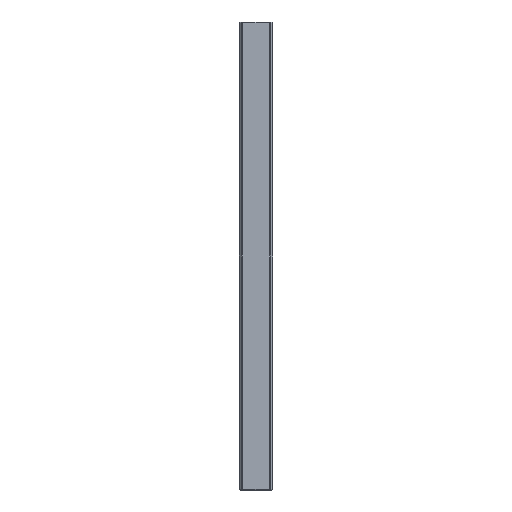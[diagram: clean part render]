
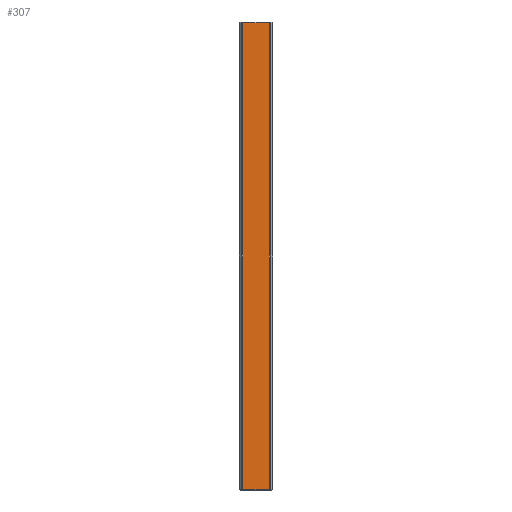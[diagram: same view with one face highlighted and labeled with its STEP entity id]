
A CAD part, front view. The second image highlights one B-rep face of the part: STEP entity #307.
In plain terms, the highlighted planar face has unit normal (0, -1, 0).
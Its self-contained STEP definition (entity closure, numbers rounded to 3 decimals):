
#162 = EDGE_CURVE ( 'NONE', #3725, #1312, #3333, .T. ) ;
#240 = LINE ( 'NONE', #790, #3924 ) ;
#246 = CARTESIAN_POINT ( 'NONE',  ( 2.195, -0.802, 100. ) ) ;
#251 = EDGE_CURVE ( 'NONE', #3675, #3725, #240, .T. ) ;
#307 = ADVANCED_FACE ( 'NONE', ( #1916 ), #1423, .F. ) ;
#315 = EDGE_CURVE ( 'NONE', #1312, #2818, #3817, .T. ) ;
#336 = EDGE_CURVE ( 'NONE', #2818, #3675, #3705, .T. ) ;
#363 = DIRECTION ( 'NONE',  ( 0., 1., 0. ) ) ;
#705 = DIRECTION ( 'NONE',  ( -1., 0., 0. ) ) ;
#790 = CARTESIAN_POINT ( 'NONE',  ( 2.195, -0.802, 0.2 ) ) ;
#859 = ORIENTED_EDGE ( 'NONE', *, *, #336, .T. ) ;
#1067 = DIRECTION ( 'NONE',  ( 0., 0., -1. ) ) ;
#1284 = DIRECTION ( 'NONE',  ( 1., 0., 0. ) ) ;
#1312 = VERTEX_POINT ( 'NONE', #4245 ) ;
#1408 = VECTOR ( 'NONE', #2861, 1000. ) ;
#1423 = PLANE ( 'NONE',  #3720 ) ;
#1666 = ORIENTED_EDGE ( 'NONE', *, *, #162, .T. ) ;
#1685 = VECTOR ( 'NONE', #1067, 1000. ) ;
#1916 = FACE_OUTER_BOUND ( 'NONE', #2916, .T. ) ;
#2192 = ORIENTED_EDGE ( 'NONE', *, *, #251, .T. ) ;
#2529 = CARTESIAN_POINT ( 'NONE',  ( -3.755, -0.802, 100. ) ) ;
#2725 = CARTESIAN_POINT ( 'NONE',  ( -3.505, -0.802, 99.8 ) ) ;
#2818 = VERTEX_POINT ( 'NONE', #2725 ) ;
#2861 = DIRECTION ( 'NONE',  ( 0., 0., 1. ) ) ;
#2889 = DIRECTION ( 'NONE',  ( 0., 0., 1. ) ) ;
#2899 = CARTESIAN_POINT ( 'NONE',  ( -3.505, -0.802, 100. ) ) ;
#2916 = EDGE_LOOP ( 'NONE', ( #859, #2192, #1666, #3284 ) ) ;
#3003 = VECTOR ( 'NONE', #705, 1000. ) ;
#3242 = CARTESIAN_POINT ( 'NONE',  ( -3.755, -0.802, 99.8 ) ) ;
#3284 = ORIENTED_EDGE ( 'NONE', *, *, #315, .T. ) ;
#3333 = LINE ( 'NONE', #246, #1408 ) ;
#3578 = CARTESIAN_POINT ( 'NONE',  ( 2.195, -0.802, 0.2 ) ) ;
#3675 = VERTEX_POINT ( 'NONE', #4302 ) ;
#3705 = LINE ( 'NONE', #2899, #1685 ) ;
#3720 = AXIS2_PLACEMENT_3D ( 'NONE', #2529, #363, #2889 ) ;
#3725 = VERTEX_POINT ( 'NONE', #3578 ) ;
#3817 = LINE ( 'NONE', #3242, #3003 ) ;
#3924 = VECTOR ( 'NONE', #1284, 1000. ) ;
#4245 = CARTESIAN_POINT ( 'NONE',  ( 2.195, -0.802, 99.8 ) ) ;
#4302 = CARTESIAN_POINT ( 'NONE',  ( -3.505, -0.802, 0.2 ) ) ;
